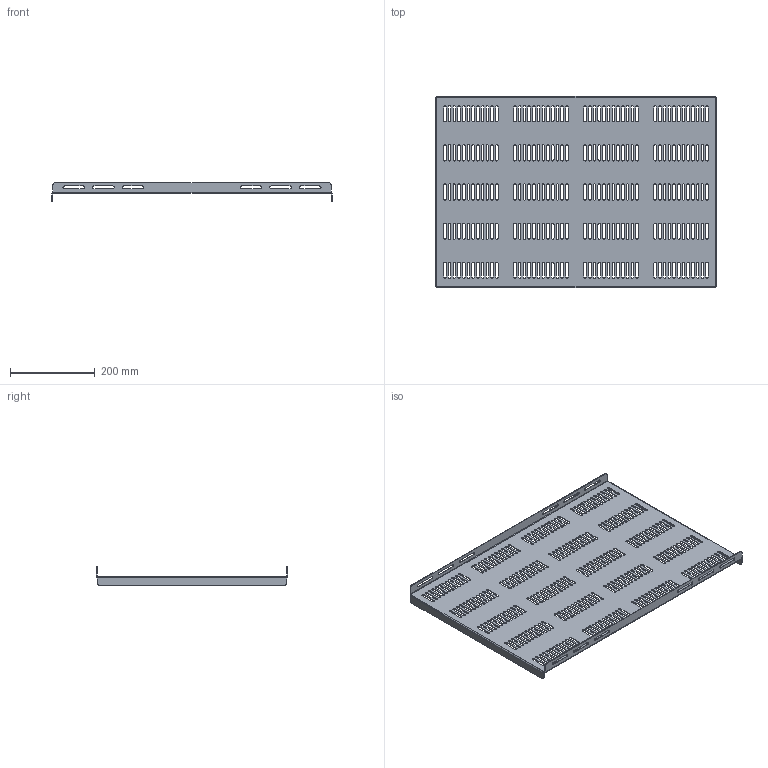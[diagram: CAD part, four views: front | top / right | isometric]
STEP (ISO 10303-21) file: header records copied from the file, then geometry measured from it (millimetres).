
FILE_DESCRIPTION( ( 'Unknown' ), '1' );
FILE_NAME( 'Q:/ACCESSORIES/SHELVES/RFUS/WEB DRAWINGS/STEP/RFVS1926.stp', 'Unknown', ( 'Unknown' ), ( 'Unknown' ), 'PSStep 10.1', 'Unknown', ' ' );
FILE_SCHEMA( ( 'AUTOMOTIVE_DESIGN { 1 0 10303 214 1 1 1 1 }' ) );
Length unit declared in the file: millimetre
Products named in the file (1): 1
Bounding box: 660.4 x 450.85 x 44.22 mm (x, y, z)
Volume: 524940.7 mm3; surface area: 617230.1 mm2
Topology: 1 solids, 1 shells, 1046 faces, 3116 edges, 2072 vertices
Faces by surface type: plane 526, cylinder 520
Entity records: 44764 total; most frequent: DIRECTION 6250, CARTESIAN_POINT 6235, ORIENTED_EDGE 6232, EDGE_CURVE 3116, AXIS2_PLACEMENT_3D 2087, LINE 2076, VECTOR 2076, VERTEX_POINT 2072
